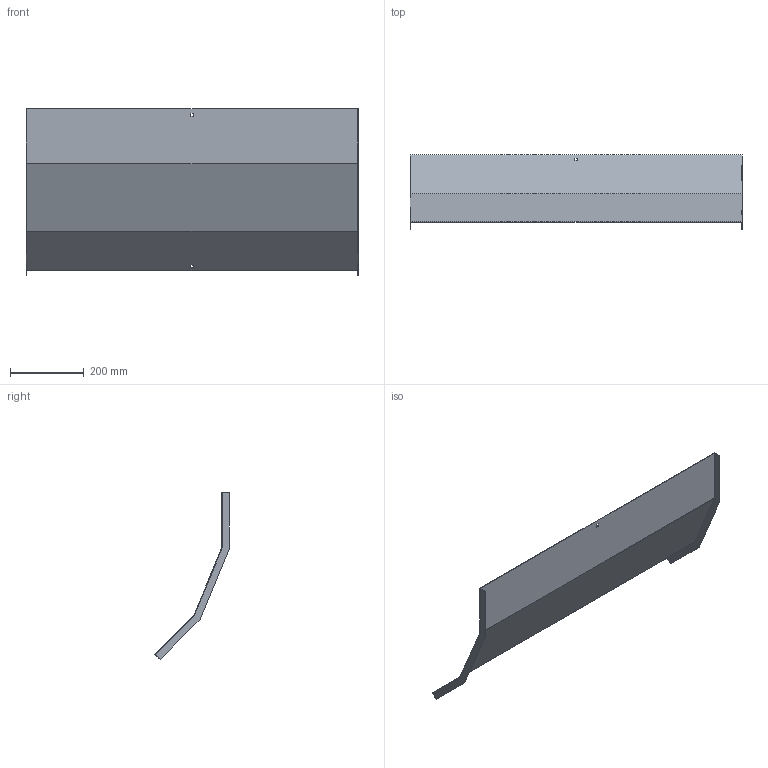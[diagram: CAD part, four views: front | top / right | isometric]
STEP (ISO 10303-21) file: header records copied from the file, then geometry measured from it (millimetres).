
FILE_DESCRIPTION (( 'STEP AP214' ), '1' );
FILE_NAME ('A2X31N5R900X.step', '2025-03-20T09:41:58', ( '' ), ( '' ), 'SwSTEP 2.0', 'SolidWorks 2023', '' );
FILE_SCHEMA (( 'AUTOMOTIVE_DESIGN' ));
Length unit declared in the file: millimetre
Products named in the file (1): A2X31N5R900X
Bounding box: 903 x 201.89 x 453.26 mm (x, y, z)
Volume: 703428.5 mm3; surface area: 942357.9 mm2
Topology: 1 solids, 1 shells, 26 faces, 72 edges, 48 vertices
Faces by surface type: plane 26
Entity records: 847 total; most frequent: CARTESIAN_POINT 147, ORIENTED_EDGE 144, DIRECTION 126, LINE 72, EDGE_CURVE 72, VECTOR 72, VERTEX_POINT 48, EDGE_LOOP 30
